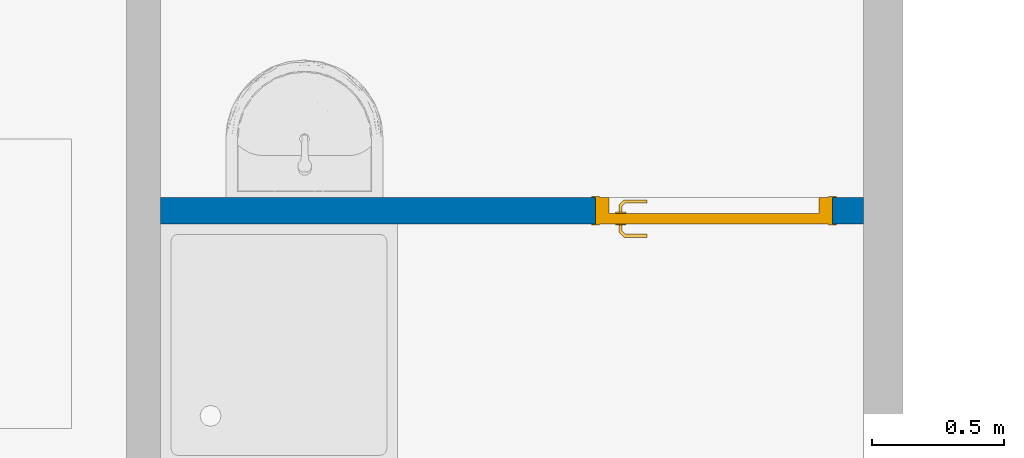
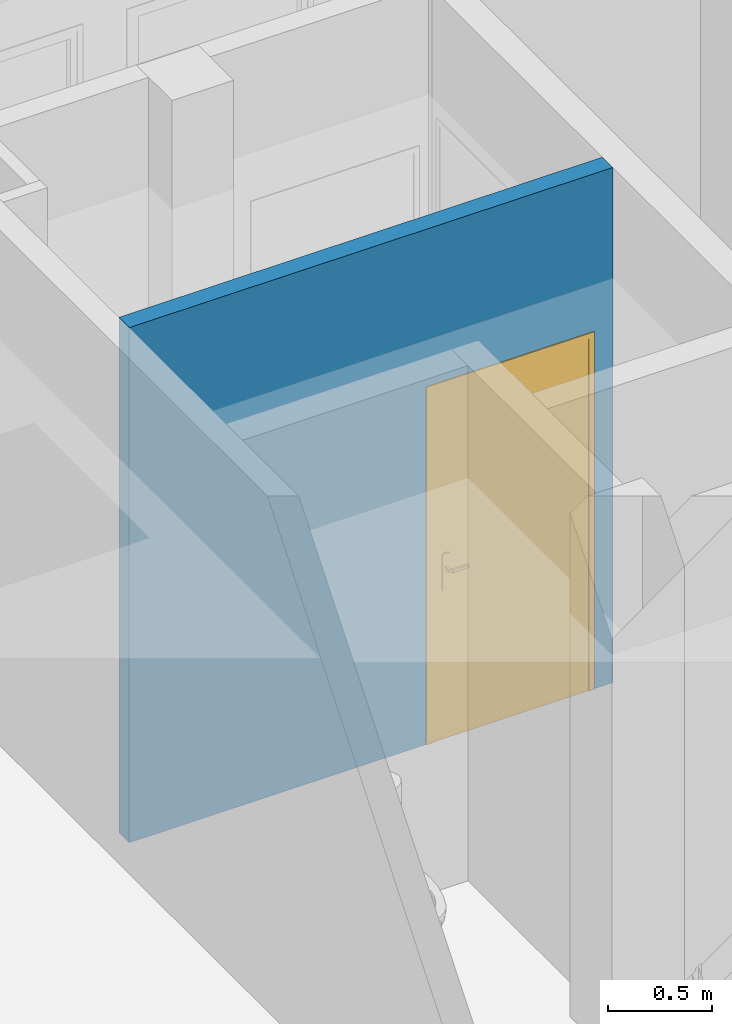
# One storey, part 43 of 97: 1 door, 1 wall, 1 opening.
"""IFC4 building model written with IfcOpenShell, lengths in metres."""

from ifc_helpers import new_model, entity, si_unit, converted_unit, derived_unit, direction, frame, origin, place, context, subcontext, project, spatial, indexed_curve, outline, extrude, polygons, source, transform, mapped, material, material_list, layer, layer_set, constituent, constituent_set, type_object, type_shapes, element, fill, save


model = new_model("IFC4")

# Units and contexts
model_context = context("Model", 3, precision=1e-05, world=origin(), true_north=direction((6.12303176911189e-17, 1.0)))
body_context = subcontext(model_context, "Body", "Model", "MODEL_VIEW")
ifc_project = project(units=[si_unit("LENGTHUNIT", "METRE"), si_unit("AREAUNIT", "SQUARE_METRE"), si_unit("VOLUMEUNIT", "CUBIC_METRE"), converted_unit("PLANEANGLEUNIT", "DEGREE", entity("IfcRatioMeasure", 0.0174532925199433), si_unit("PLANEANGLEUNIT", "RADIAN"), dimensions=[0, 0, 0, 0, 0, 0, 0]), si_unit("MASSUNIT", "GRAM", prefix="KILO"), derived_unit("MASSDENSITYUNIT", [(si_unit("MASSUNIT", "GRAM", prefix="KILO"), 1), (si_unit("LENGTHUNIT", "METRE"), -3)]), derived_unit("MOMENTOFINERTIAUNIT", [(si_unit("LENGTHUNIT", "METRE"), 4)]), si_unit("TIMEUNIT", "SECOND"), si_unit("FREQUENCYUNIT", "HERTZ"), si_unit("THERMODYNAMICTEMPERATUREUNIT", "DEGREE_CELSIUS"), derived_unit("THERMALTRANSMITTANCEUNIT", [(si_unit("MASSUNIT", "GRAM", prefix="KILO"), 1), (si_unit("THERMODYNAMICTEMPERATUREUNIT", "KELVIN"), -1), (si_unit("TIMEUNIT", "SECOND"), -3)]), derived_unit("VOLUMETRICFLOWRATEUNIT", [(si_unit("LENGTHUNIT", "METRE"), 3), (si_unit("TIMEUNIT", "SECOND"), -1)]), si_unit("ELECTRICCURRENTUNIT", "AMPERE"), si_unit("ELECTRICVOLTAGEUNIT", "VOLT"), si_unit("POWERUNIT", "WATT"), si_unit("FORCEUNIT", "NEWTON", prefix="KILO"), si_unit("ILLUMINANCEUNIT", "LUX"), si_unit("LUMINOUSFLUXUNIT", "LUMEN"), si_unit("LUMINOUSINTENSITYUNIT", "CANDELA"), derived_unit("USERDEFINED", [(si_unit("MASSUNIT", "GRAM", prefix="KILO"), -1), (si_unit("LENGTHUNIT", "METRE"), -2), (si_unit("TIMEUNIT", "SECOND"), 3), (si_unit("LUMINOUSFLUXUNIT", "LUMEN"), 1)]), derived_unit("LINEARVELOCITYUNIT", [(si_unit("LENGTHUNIT", "METRE"), 1), (si_unit("TIMEUNIT", "SECOND"), -1)]), si_unit("PRESSUREUNIT", "PASCAL"), derived_unit("USERDEFINED", [(si_unit("LENGTHUNIT", "METRE"), -2), (si_unit("MASSUNIT", "GRAM", prefix="KILO"), 1), (si_unit("TIMEUNIT", "SECOND"), -2)]), derived_unit("LINEARFORCEUNIT", [(si_unit("MASSUNIT", "GRAM", prefix="KILO"), 1), (si_unit("LENGTHUNIT", "METRE"), 1), (si_unit("TIMEUNIT", "SECOND"), -2), (si_unit("LENGTHUNIT", "METRE"), -1)]), derived_unit("PLANARFORCEUNIT", [(si_unit("MASSUNIT", "GRAM", prefix="KILO"), 1), (si_unit("LENGTHUNIT", "METRE"), 1), (si_unit("TIMEUNIT", "SECOND"), -2), (si_unit("LENGTHUNIT", "METRE"), -2)])], contexts=[model_context])

# Site, building, storey
site_placement = place(None, origin())
site = spatial("IfcSite", under=ifc_project, at=site_placement, Name="Default", CompositionType="ELEMENT")
building_placement = place(site_placement, origin())
building = spatial("IfcBuilding", under=site, at=building_placement, Name="HOTEL CONSULAIRE BOULOGNE SUR MER", CompositionType="ELEMENT")
storey_placement = place(building_placement, frame((0.0, 0.0, 3.62152697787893)))
storey = spatial("IfcBuildingStorey", under=building, at=storey_placement, Name="Niveau 1", CompositionType="ELEMENT", Elevation=3.62152697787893)

# Wall, opening, door
ifc_material_1 = material(Name="Mur par défaut", Category="Divers")
ifc_layer = layer(ifc_material_1, 0.1, Name="Mur par défaut", Category="Divers")
ifc_layer_set = layer_set([ifc_layer], Name="Mur de base:Générique - Int. 100 mm")
wall_type = type_object("IfcWallType", Name="Mur de base:Générique - Int. 100 mm", PredefinedType="NOTDEFINED", material=ifc_layer_set)
wall_placement = place(storey_placement, frame((-2.53052868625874, -17.2677856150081, 0.0)))
wall = element("IfcWall", 1, at=wall_placement, inside=storey, type_object=wall_type, material=ifc_layer_set, Name="Mur de base:Générique - Int. 100 mm", ObjectType="Mur de base:Générique - Int. 100 mm", PredefinedType="NOTDEFINED", context=body_context, shape_type="Tessellation", body=[
    polygons([(1.65416374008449, -0.0499999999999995, 0.0), (1.27288223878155e-16, -0.0500000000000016, 0.0), (-1.92345666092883e-16, 0.0499999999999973, 0.0), (1.65416374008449, 0.0500000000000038, 0.0), (2.67216374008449, -0.0500000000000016, 3.01021454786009), (1.27288223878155e-16, -0.0500000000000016, 3.01021454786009), (1.65416374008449, -0.0499999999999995, 2.075), (2.55416374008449, -0.0500000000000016, 2.075), (2.55416374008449, -0.0500000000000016, 0.0), (2.67216374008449, -0.0500000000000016, 0.0), (3.49087898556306e-16, 0.0499999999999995, 3.01021454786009), (2.67216374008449, 0.0499999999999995, 3.01021454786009), (2.67216374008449, 0.0499999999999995, 0.0), (2.55416374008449, 0.0499999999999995, 0.0), (2.55416374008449, 0.0499999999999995, 2.075), (1.65416374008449, 0.0500000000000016, 2.075)], [[[4, 1, 2, 3]], [[16, 15, 8, 7]], [[13, 10, 9, 14]], [[2, 1, 7, 8, 9, 10, 5, 6]], [[13, 14, 15, 16, 4, 3, 11, 12]], [[6, 5, 12, 11]], [[10, 13, 12, 5]], [[4, 16, 7, 1]], [[15, 14, 9, 8]], [[3, 2, 6, 11]]], closed=True),
])
opening_placement = place(wall_placement, frame((2.55416374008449, 0.0499999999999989, 0.0)))
opening = element("IfcOpeningElement", 2, at=opening_placement, cuts=wall, Name="Int. Simple:PP (0.83m x 2.04m):1", ObjectType="Opening", PredefinedType="OPENING", context=body_context, shape_type="SweptSolid", body=[
    extrude(outline(indexed_curve([(0.0, -4.65100137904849e-30), (2.075, -4.65100137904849e-30), (2.075, 0.9), (0.0, 0.9), (0.0, -4.65100137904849e-30)], self_intersect=False)), frame((0.0, 0.0, 0.0), z_axis=(0.0, -1.0, 0.0), x_axis=(0.0, 0.0, 1.0)), (0.0, 0.0, 1.0), 0.1),
])
ifc_material_2 = material(Name="Finition Peinture - Blanc satiné", Category="Peinture")
ifc_constituent_1 = constituent(ifc_material_2, Name="Finition Peinture - Blanc satiné", Category="Matériaux")
ifc_material_3 = material(Name="Bois - Panneau de porte", Category="Bois")
ifc_constituent_2 = constituent(ifc_material_3, Name="Bois - Panneau de porte", Category="Matériaux")
ifc_material_4 = material(Name="Bois - Cadre de porte", Category="Bois")
ifc_constituent_3 = constituent(ifc_material_4, Name="Bois - Cadre de porte", Category="Matériaux")
ifc_constituent_set = constituent_set(constituents=[ifc_constituent_1, ifc_constituent_2, ifc_constituent_3], Name="MaterialConstituentSet")
ifc_material_list = material_list([ifc_material_3, ifc_material_4, ifc_material_2, ifc_material_4])
door_type = type_object("IfcDoorType", Name="Int. Simple:PP (0.83m x 2.04m)", OperationType="NOTDEFINED", PredefinedType="DOOR", material=ifc_material_list)
shared_shape = source(origin(), body_context, "Body", "Tessellation", [
    polygons([(0.0750000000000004, -0.00500000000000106, 0.870000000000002), (0.0846472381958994, -0.00500000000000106, 0.866003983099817), (0.0950000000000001, -0.00500000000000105, 0.86464101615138), (0.105352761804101, -0.00500000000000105, 0.866003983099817), (0.115, -0.00500000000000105, 0.870000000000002), (0.114999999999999, -0.00500000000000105, 1.08), (0.1053527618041, -0.00500000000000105, 1.08399601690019), (0.094999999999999, -0.00500000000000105, 1.08535898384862), (0.0846472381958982, -0.00500000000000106, 1.08399601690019), (0.0749999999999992, -0.00500000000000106, 1.08), (0.0749999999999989, -1.06594733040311e-15, 0.870000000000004), (0.0749999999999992, -1.06594733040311e-15, 1.08), (0.0846472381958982, -1.06594733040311e-15, 1.08399601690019), (0.094999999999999, -1.05748743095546e-15, 1.08535898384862), (0.1053527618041, -1.05748743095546e-15, 1.08399601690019), (0.114999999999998, -1.04902753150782e-15, 1.08), (0.115, -1.04902753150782e-15, 0.870000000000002), (0.105352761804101, -1.05748743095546e-15, 0.866003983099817), (0.0950000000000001, -1.05748743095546e-15, 0.86464101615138), (0.0846472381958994, -1.06594733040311e-15, 0.866003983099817)], [[[4, 5, 6, 7, 8, 9, 10, 1, 2, 3]], [[15, 16, 17, 18, 19, 20, 11, 12, 13, 14]], [[11, 20, 2, 1]], [[2, 20, 19, 3]], [[19, 18, 4, 3]], [[18, 17, 5, 4]], [[6, 5, 17, 16]], [[16, 15, 7, 6]], [[7, 15, 14, 8]], [[14, 13, 9, 8]], [[13, 12, 10, 9]], [[1, 10, 12, 11]]], closed=True),
    polygons([(0.114999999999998, 0.0399999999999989, 1.08), (0.105352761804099, 0.0399999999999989, 1.08399601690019), (0.0949999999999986, 0.0399999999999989, 1.08535898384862), (0.084647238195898, 0.0399999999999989, 1.08399601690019), (0.0749999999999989, 0.0399999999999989, 1.08), (0.0750000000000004, 0.0399999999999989, 0.870000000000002), (0.0846472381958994, 0.0399999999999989, 0.866003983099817), (0.0950000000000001, 0.0399999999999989, 0.86464101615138), (0.105352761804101, 0.0399999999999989, 0.866003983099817), (0.115, 0.0399999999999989, 0.870000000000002), (0.114999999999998, 0.0449999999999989, 1.08), (0.115, 0.0449999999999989, 0.870000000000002), (0.105352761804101, 0.0449999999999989, 0.866003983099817), (0.0950000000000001, 0.0449999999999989, 0.86464101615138), (0.0846472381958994, 0.0449999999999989, 0.866003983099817), (0.0749999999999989, 0.0449999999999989, 0.870000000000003), (0.0749999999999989, 0.0449999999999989, 1.08), (0.084647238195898, 0.0449999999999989, 1.08399601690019), (0.0949999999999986, 0.0449999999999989, 1.08535898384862), (0.105352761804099, 0.0449999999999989, 1.08399601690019)], [[[9, 10, 1, 2, 3, 4, 5, 6, 7, 8]], [[20, 11, 12, 13, 14, 15, 16, 17, 18, 19]], [[11, 20, 2, 1]], [[2, 20, 19, 3]], [[19, 18, 4, 3]], [[18, 17, 5, 4]], [[6, 5, 17, 16]], [[16, 15, 7, 6]], [[7, 15, 14, 8]], [[14, 13, 9, 8]], [[13, 12, 10, 9]], [[1, 10, 12, 11]]], closed=True),
    polygons([(0.0889999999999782, -0.00500000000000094, 1.007), (0.0929747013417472, -0.00500000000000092, 1.00778044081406), (0.0970252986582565, -0.0050000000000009, 1.00778044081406), (0.101000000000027, -0.00500000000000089, 1.00699999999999), (0.101000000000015, -0.00500000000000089, 0.993000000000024), (0.0970252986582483, -0.0050000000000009, 0.992219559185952), (0.0929747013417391, -0.00500000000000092, 0.99221955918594), (0.0889999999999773, -0.00500000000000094, 0.992999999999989), (0.0889999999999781, -0.0326509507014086, 1.007), (0.092974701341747, -0.0310045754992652, 1.00778044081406), (0.0970252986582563, -0.0293267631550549, 1.00778044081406), (0.101000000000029, -0.0276803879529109, 1.007), (0.101000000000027, -0.0276803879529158, 0.993000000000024), (0.0970252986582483, -0.0293267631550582, 0.992219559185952), (0.0929747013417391, -0.0310045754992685, 0.99221955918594), (0.0889999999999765, -0.0326509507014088, 0.992999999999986), (0.107377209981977, -0.0510281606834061, 1.007), (0.10902358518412, -0.0470534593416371, 1.00778044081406), (0.110701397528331, -0.0430028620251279, 1.00778044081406), (0.112347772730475, -0.0390281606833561, 1.007), (0.112347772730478, -0.0390281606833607, 0.993000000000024), (0.110701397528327, -0.0430028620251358, 0.992219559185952), (0.109023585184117, -0.0470534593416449, 0.99221955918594), (0.107377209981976, -0.0510281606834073, 0.992999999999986), (0.195018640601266, -0.0510281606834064, 1.00699999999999), (0.195018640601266, -0.051028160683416, 0.992999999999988), (0.195018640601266, -0.0470534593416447, 0.99221955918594), (0.195018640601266, -0.0430028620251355, 0.992219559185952), (0.195018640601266, -0.0390281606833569, 0.993000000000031), (0.195018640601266, -0.0390281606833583, 1.007), (0.195018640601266, -0.0430028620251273, 1.00778044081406), (0.195018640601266, -0.0470534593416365, 1.00778044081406), (0.147307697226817, -0.0510281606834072, 1.007), (0.152860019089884, -0.045028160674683, 1.0078786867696), (0.15368320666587, -0.039028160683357, 1.007), (0.147307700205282, -0.0510281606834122, 0.992999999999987), (0.152860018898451, -0.0450281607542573, 0.992121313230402), (0.153683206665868, -0.0390281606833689, 0.993000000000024)], [[[2, 3, 4, 5, 6, 7, 8, 1]], [[21, 20, 35, 30, 29, 38]], [[9, 10, 2, 1]], [[10, 18, 19, 11, 3, 2]], [[11, 12, 4, 3]], [[5, 4, 12, 13]], [[26, 27, 28, 29, 30, 31, 32, 25]], [[13, 14, 6, 5]], [[14, 22, 23, 15, 7, 6]], [[15, 16, 8, 7]], [[1, 8, 16, 9]], [[17, 18, 10, 9]], [[19, 20, 12, 11]], [[13, 12, 20, 21]], [[21, 22, 14, 13]], [[23, 24, 16, 15]], [[9, 16, 24, 17]], [[33, 32, 34]], [[25, 32, 33]], [[18, 17, 33]], [[34, 35, 19]], [[20, 19, 35]], [[35, 31, 30]], [[32, 31, 34]], [[31, 35, 34]], [[18, 33, 34]], [[18, 34, 19]], [[38, 28, 37]], [[36, 37, 27]], [[21, 38, 22]], [[38, 29, 28]], [[26, 36, 27]], [[24, 23, 36]], [[36, 23, 37]], [[23, 22, 37]], [[22, 38, 37]], [[27, 37, 28]], [[17, 24, 36, 26, 25, 33]]], closed=True),
    polygons([(0.10100000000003, 0.0449999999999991, 0.993000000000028), (0.101000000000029, 0.0449999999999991, 1.007), (0.0970252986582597, 0.0449999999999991, 1.00778044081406), (0.0929747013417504, 0.0449999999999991, 1.00778044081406), (0.0889999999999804, 0.044999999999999, 1.007), (0.0889999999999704, 0.044999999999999, 0.992999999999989), (0.0929747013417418, 0.0449999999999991, 0.99221955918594), (0.0970252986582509, 0.0449999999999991, 0.992219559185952), (0.10100000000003, 0.067485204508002, 0.993000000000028), (0.10100000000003, 0.0674852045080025, 1.007), (0.0970252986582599, 0.0691315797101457, 1.00778044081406), (0.0929747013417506, 0.070809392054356, 1.00778044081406), (0.0889999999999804, 0.0724557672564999, 1.007), (0.0889999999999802, 0.072455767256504, 0.992999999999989), (0.0929747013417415, 0.0708093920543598, 0.99221955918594), (0.0970252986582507, 0.0691315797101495, 0.992219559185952), (0.112485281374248, 0.0789704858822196, 0.993000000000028), (0.112485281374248, 0.0789704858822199, 1.007), (0.110838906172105, 0.0829451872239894, 1.00778044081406), (0.109161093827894, 0.0869957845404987, 1.00778044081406), (0.107514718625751, 0.0909704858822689, 1.007), (0.107514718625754, 0.090970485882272, 0.992999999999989), (0.109161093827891, 0.0869957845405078, 0.99221955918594), (0.110838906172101, 0.0829451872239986, 0.992219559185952), (0.195045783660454, 0.0789704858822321, 0.993000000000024), (0.195045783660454, 0.0829451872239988, 0.992219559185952), (0.195045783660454, 0.086995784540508, 0.99221955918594), (0.195045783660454, 0.0909704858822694, 0.992999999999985), (0.195045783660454, 0.0909704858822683, 1.007), (0.195045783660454, 0.0869957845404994, 1.00778044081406), (0.195045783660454, 0.0829451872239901, 1.00778044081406), (0.195045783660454, 0.0789704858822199, 1.007), (0.147445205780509, 0.0909704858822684, 1.007), (0.152942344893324, 0.0849704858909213, 1.0078786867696), (0.153765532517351, 0.0789704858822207, 1.007), (0.147445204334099, 0.0909704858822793, 0.992999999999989), (0.152942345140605, 0.0849704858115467, 0.992121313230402), (0.153765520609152, 0.0789704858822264, 0.993000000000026)], [[[4, 5, 6, 7, 8, 1, 2, 3]], [[18, 17, 38, 25, 32, 35]], [[2, 1, 9, 10]], [[25, 26, 27, 28, 29, 30, 31, 32]], [[10, 11, 3, 2]], [[11, 19, 20, 12, 4, 3]], [[12, 13, 5, 4]], [[6, 5, 13, 14]], [[14, 15, 7, 6]], [[15, 23, 24, 16, 8, 7]], [[16, 9, 1, 8]], [[10, 9, 17, 18]], [[18, 19, 11, 10]], [[20, 21, 13, 12]], [[14, 13, 21, 22]], [[22, 23, 15, 14]], [[24, 17, 9, 16]], [[35, 31, 34]], [[33, 34, 30]], [[18, 35, 19]], [[35, 32, 31]], [[29, 33, 30]], [[21, 20, 33]], [[33, 20, 34]], [[20, 19, 34]], [[19, 35, 34]], [[30, 34, 31]], [[21, 33, 29, 28, 36, 22]], [[36, 27, 37]], [[28, 27, 36]], [[23, 22, 36]], [[37, 38, 24]], [[17, 24, 38]], [[38, 26, 25]], [[27, 26, 37]], [[26, 38, 37]], [[23, 36, 37]], [[23, 37, 24]]], closed=True),
    polygons([(0.034999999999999, 0.04, 2.04), (0.865, 0.04, 2.04), (0.864999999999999, 0.04, 0.0), (0.034999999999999, 0.04, 0.0), (0.034999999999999, 3.38395977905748e-17, 2.04), (0.034999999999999, 3.38395977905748e-17, 0.0), (0.864999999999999, 3.38395977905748e-17, 0.0), (0.865, 3.38395977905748e-17, 2.04)], [[[4, 1, 2, 3]], [[7, 8, 5, 6]], [[2, 1, 5, 8]], [[3, 2, 8, 7]], [[4, 3, 7, 6]], [[1, 4, 6, 5]]], closed=True),
    polygons([(-1.54308565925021e-14, 0.0, 0.0), (-1.54308565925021e-14, 0.100000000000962, 0.0), (0.0499999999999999, 0.100000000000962, 0.0), (0.0499999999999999, 0.040000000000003, 0.0), (0.0349999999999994, 0.040000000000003, 0.0), (0.0349999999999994, 0.0, 0.0), (-1.53631773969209e-14, 0.0, 2.07500000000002), (-1.53631773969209e-14, 0.100000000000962, 2.07500000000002), (0.900000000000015, 0.100000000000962, 2.07500000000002), (0.900000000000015, 0.100000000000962, 9.23443718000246e-25), (0.85, 0.100000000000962, 6.02669015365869e-24), (0.85, 0.100000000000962, 2.025), (0.05, 0.100000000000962, 2.025), (0.05, 0.040000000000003, 2.025), (0.85, 0.040000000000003, 2.025), (0.85, 0.040000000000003, 1.99209609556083e-25), (0.865, 0.040000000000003, 1.51399294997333e-24), (0.865000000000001, 0.040000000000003, 2.04), (0.0349999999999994, 0.040000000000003, 2.04), (0.0349999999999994, 0.0, 2.04), (0.865, 0.0, 2.04), (0.865, 0.0, 3.40121094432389e-24), (0.900000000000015, 0.0, 1.81925185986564e-24), (0.900000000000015, 0.0, 2.07500000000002)], [[[5, 6, 1, 2, 3, 4]], [[11, 10, 23, 22, 17, 16]], [[14, 13, 12, 15]], [[20, 19, 18, 21]], [[2, 1, 7, 8]], [[15, 12, 11, 16]], [[21, 18, 17, 22]], [[3, 2, 8, 9, 10, 11, 12, 13]], [[4, 3, 13, 14]], [[6, 5, 19, 20]], [[9, 24, 23, 10]], [[16, 17, 18, 19, 5, 4, 14, 15]], [[22, 23, 24, 7, 1, 6, 20, 21]], [[8, 7, 24, 9]]], closed=True),
    polygons([(0.0149999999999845, 0.100000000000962, 1.35358391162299e-16), (-0.0150000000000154, 0.100000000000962, 1.35358391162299e-16), (-0.0150000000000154, 0.105000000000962, 1.35358391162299e-16), (0.0149999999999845, 0.105000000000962, 1.35358391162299e-16), (0.0149999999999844, 0.100000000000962, 2.06000000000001), (0.884999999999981, 0.100000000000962, 2.06000000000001), (0.88499999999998, 0.100000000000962, 5.09144897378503e-24), (0.91499999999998, 0.100000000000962, -5.44393448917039e-24), (0.91499999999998, 0.100000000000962, 2.09000000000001), (-0.0150000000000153, 0.100000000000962, 2.09000000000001), (-0.0150000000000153, 0.105000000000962, 2.09000000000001), (0.91499999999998, 0.105000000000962, 2.09000000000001), (0.91499999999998, 0.105000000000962, 5.03766794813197e-24), (0.88499999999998, 0.105000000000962, -1.89153776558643e-24), (0.88499999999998, 0.105000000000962, 2.06000000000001), (0.0149999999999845, 0.105000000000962, 2.06000000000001)], [[[1, 2, 3, 4]], [[14, 13, 8, 7]], [[5, 16, 15, 6]], [[7, 8, 9, 10, 2, 1, 5, 6]], [[3, 2, 10, 11]], [[6, 15, 14, 7]], [[4, 3, 11, 12, 13, 14, 15, 16]], [[1, 4, 16, 5]], [[12, 9, 8, 13]], [[11, 10, 9, 12]]], closed=True),
    polygons([(0.0149999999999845, -0.005, 1.35358391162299e-16), (-0.0150000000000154, -0.005, 1.35358391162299e-16), (-0.0150000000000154, 0.0, 1.35358391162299e-16), (0.0149999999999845, 0.0, 1.35358391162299e-16), (0.88499999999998, -0.005, -1.35358391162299e-16), (0.88499999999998, 0.0, -1.35358391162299e-16), (0.91499999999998, 0.0, -1.35358391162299e-16), (0.91499999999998, -0.005, -1.35358391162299e-16), (0.0149999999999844, -0.005, 2.06000000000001), (0.884999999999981, -0.005, 2.06000000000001), (0.91499999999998, -0.005, 2.09000000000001), (-0.0150000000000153, -0.005, 2.09000000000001), (-0.0150000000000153, 0.0, 2.09000000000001), (0.91499999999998, 0.0, 2.09000000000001), (0.88499999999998, 0.0, 2.06000000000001), (0.0149999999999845, 0.0, 2.06000000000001)], [[[2, 3, 4, 1]], [[6, 7, 8, 5]], [[9, 16, 15, 10]], [[5, 8, 11, 12, 2, 1, 9, 10]], [[3, 2, 12, 13]], [[10, 15, 6, 5]], [[4, 3, 13, 14, 7, 6, 15, 16]], [[1, 4, 16, 9]], [[14, 11, 8, 7]], [[13, 12, 11, 14]]], closed=True),
])
type_shapes(door_type, [shared_shape])
door_placement = place(opening_placement, frame((-0.9, -0.100000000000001, 0.0)))
door = element("IfcDoor", 3, at=door_placement, inside=storey, type_object=door_type, material=ifc_constituent_set, Name="Int. Simple:PP (0.83m x 2.04m)", ObjectType="Int. Simple:PP (0.83m x 2.04m)", OperationType="NOTDEFINED", OverallHeight=2.075, OverallWidth=0.9, PredefinedType="DOOR", context=body_context, shape_type="MappedRepresentation", body=[
    mapped(shared_shape, transform((0.0, 0.0, 0.0), scale=1.0)),
])
fill(opening, door)

save(model, "model.ifc")
